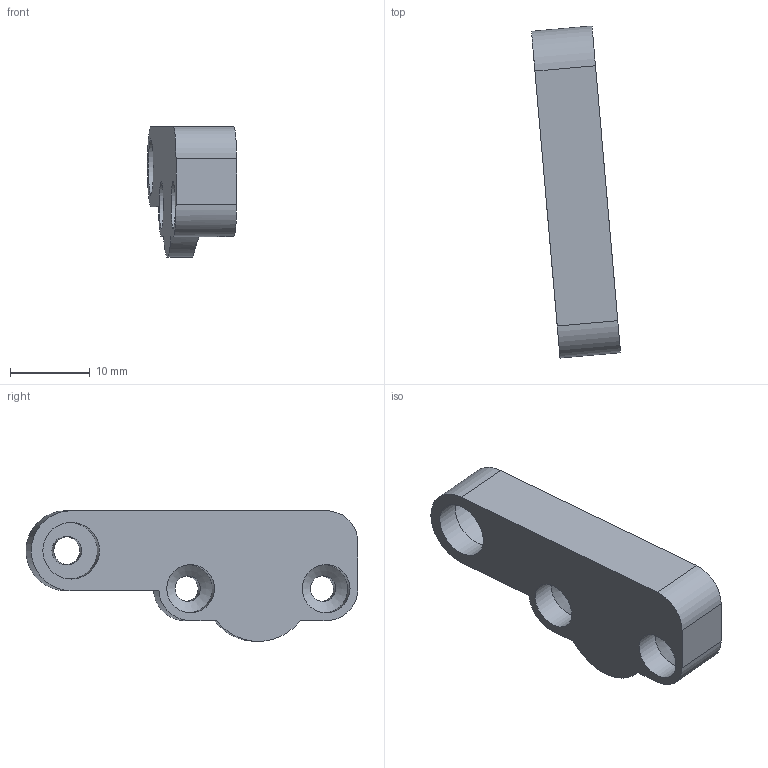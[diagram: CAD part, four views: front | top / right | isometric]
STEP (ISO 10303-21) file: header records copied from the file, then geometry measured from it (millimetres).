
FILE_DESCRIPTION(/* description */ (''),/* implementation_level */ '2;1');
FILE_NAME(/* name */ '4-38-1 Lower chassis socket right.step',/* time_stamp */ '2025-05-10T22:20:17+02:00',/* author */ (''),/* organization */ (''),/* preprocessor_version */ 'ST-DEVELOPER v20.1',/* originating_system */ 'Autodesk Translation Framework v14.4.0.0',/* authorisation */ '');
FILE_SCHEMA (('AUTOMOTIVE_DESIGN { 1 0 10303 214 3 1 1 }'));
Length unit declared in the file: millimetre
Products named in the file (1): Lower chassis socket right
Bounding box: 11.14 x 41.51 x 16.33 mm (x, y, z)
Volume: 2947.3 mm3; surface area: 2031.4 mm2
Topology: 1 solids, 1 shells, 29 faces, 78 edges, 50 vertices
Faces by surface type: cylinder 13, plane 9, cone 4, bspline 2, sphere 1
Full cylindrical faces by diameter (mm): 3.2 x2, 3.5 x1, 6 x2, 7.1 x1
Entity records: 1044 total; most frequent: CARTESIAN_POINT 264, DIRECTION 157, ORIENTED_EDGE 154, EDGE_CURVE 77, AXIS2_PLACEMENT_3D 64, VERTEX_POINT 50, EDGE_LOOP 35, CIRCLE 30
